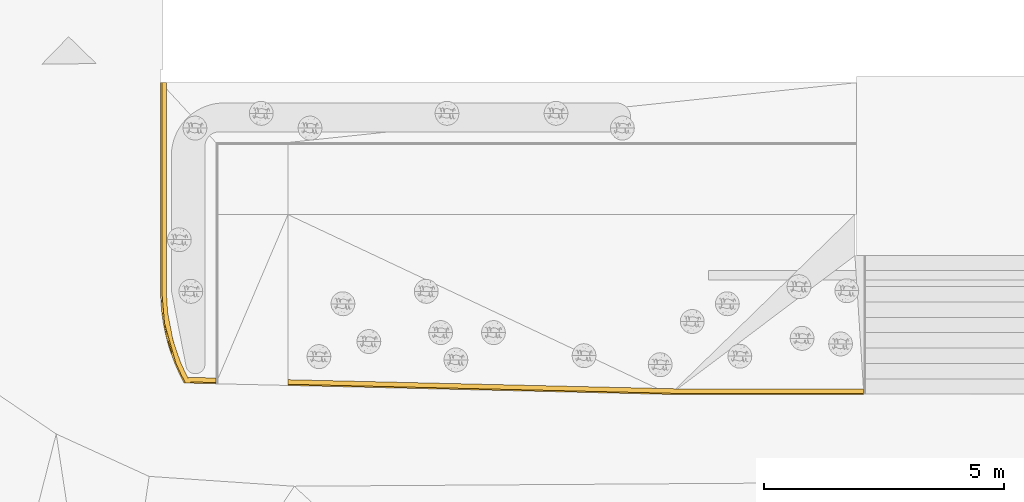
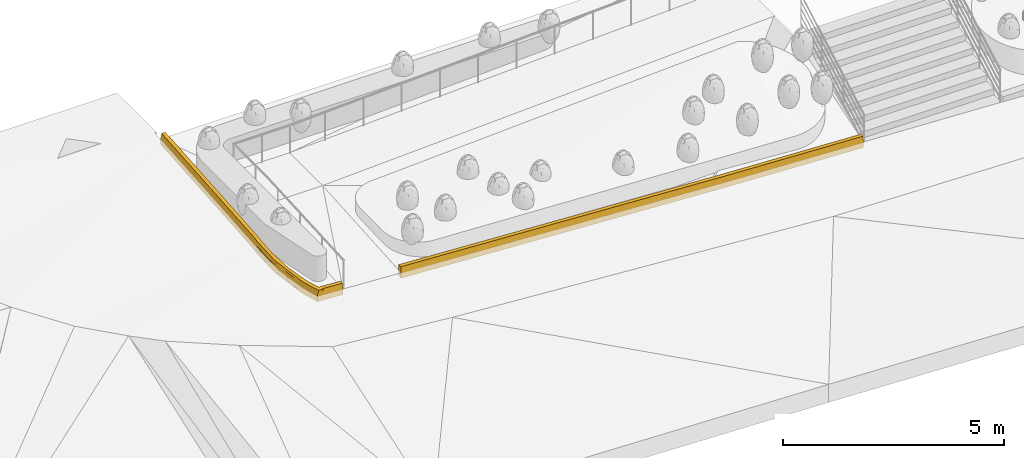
# One storey, part 17 of 23: 2 railings.
"""IFC2X3 building model written with IfcOpenShell, lengths in metres."""

from ifc_helpers import new_model, entity, si_unit, converted_unit, direction, frame, origin, place, context, subcontext, project, spatial, faceted_brep, material, material_list, type_object, element, save


model = new_model("IFC2X3")

# Units and contexts
model_context = context("Model", 3, precision=1e-05, world=origin(), true_north=direction((0.7716245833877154, 0.6360782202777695)))
body_context = subcontext(model_context, "Body", "Model", "MODEL_VIEW")
ifc_project = project(units=[si_unit("LENGTHUNIT", "METRE"), converted_unit("PLANEANGLEUNIT", "DEGREE", entity("IfcPlaneAngleMeasure", 0.017453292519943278), si_unit("PLANEANGLEUNIT", "RADIAN"), dimensions=[0, 0, 0, 0, 0, 0, 0]), si_unit("AREAUNIT", "SQUARE_METRE")], contexts=[model_context])

# Site, building, storey
site_placement = place(None, origin())
site = spatial("IfcSite", under=ifc_project, at=site_placement, Name="Default", CompositionType="ELEMENT")
building_placement = place(site_placement, origin())
building = spatial("IfcBuilding", under=site, at=building_placement, Name="<Building Name>", CompositionType="ELEMENT")
storey_placement = place(building_placement, origin())
storey = spatial("IfcBuildingStorey", under=building, at=storey_placement, Name="00 - HAV", CompositionType="ELEMENT", Elevation=0.0)

# Railings
ifc_material_1 = material(Name="Site - Concrete - Curb")
railing_type = type_object("IfcRailingType", Name="Railing:760 Kantstein 120x300mm", PredefinedType="NOTDEFINED")
railing_1_placement = place(storey_placement, frame((232.41792444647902, 46.69396431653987, 31.67794092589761)))
element("IfcRailing", 1, at=railing_1_placement, inside=storey, type_object=railing_type, material=ifc_material_1, Name="Railing:760 Kantstein 120x300mm", ObjectType="Railing:760 Kantstein 120x300mm", PredefinedType="NOTDEFINED", context=body_context, shape_type="Brep", body=[
    faceted_brep([(0.0, 0.19229799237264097, 0.6265913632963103), (0.0005877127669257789, 0.21729108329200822, 0.7684652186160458), (0.002821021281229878, 0.3122648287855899, 0.7684652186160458), (0.002821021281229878, 0.3122648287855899, 0.4682709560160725), (0.0, 0.19229799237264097, 0.4682709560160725), (7.952695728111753, 0.005290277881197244, 0.3402700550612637), (7.959175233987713, 0.030144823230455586, 0.4819317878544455), (7.961408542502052, 0.1251185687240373, 0.4819317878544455), (7.94894195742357, 0.12541172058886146, 0.1821863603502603), (7.9461209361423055, 0.005444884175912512, 0.1821863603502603), (8.177670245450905, 0.0, 0.3296452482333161), (8.177670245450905, 0.0, 0.17125104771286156), (8.177670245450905, 0.12003317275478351, 0.17138427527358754), (8.177670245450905, 0.12003317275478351, 0.47171845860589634), (8.177670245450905, 0.025006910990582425, 0.471612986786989)], [[[0, 1, 2, 3, 4]], [[1, 0, 5, 6]], [[2, 1, 6, 7]], [[3, 2, 7, 8]], [[4, 3, 8, 9]], [[0, 4, 9, 5]], [[10, 11, 12, 13, 14]], [[6, 5, 10, 14]], [[7, 6, 14, 13]], [[8, 7, 13, 12]], [[9, 8, 12, 11]], [[5, 9, 11, 10]]]),
    faceted_brep([(8.177670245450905, 1.6586377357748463e-05, 0.32964595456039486), (8.177670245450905, 0.02501658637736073, 0.4715719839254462), (8.177670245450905, 0.12001658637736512, 0.4715719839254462), (8.177670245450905, 0.12001658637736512, 0.17126732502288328), (8.177670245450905, 1.6586377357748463e-05, 0.17126732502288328), (11.976964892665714, 1.6586377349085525e-05, 0.15837862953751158), (11.976964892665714, 1.6586377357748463e-05, 0.0), (11.976964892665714, 0.12001658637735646, 0.0), (11.976964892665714, 0.12001658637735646, 0.30030465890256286), (11.976964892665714, 0.025016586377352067, 0.30030465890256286)], [[[0, 1, 2, 3, 4]], [[5, 6, 7, 8, 9]], [[1, 0, 5, 9]], [[2, 1, 9, 8]], [[3, 2, 8, 7]], [[4, 3, 7, 6]], [[0, 4, 6, 5]]]),
])
ifc_material_2 = material(Name="A_Default_Building_Part")
ifc_material_list = material_list([ifc_material_1, ifc_material_2])
railing_2_placement = place(storey_placement, frame((229.76623696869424, 46.92153482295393, 32.195423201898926)))
element("IfcRailing", 2, at=railing_2_placement, inside=storey, type_object=railing_type, material=ifc_material_list, Name="Railing:760 Kantstein 120x300mm", ObjectType="Railing:760 Kantstein 120x300mm", PredefinedType="NOTDEFINED", context=body_context, shape_type="Brep", body=[
    faceted_brep([(0.001687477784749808, 6.270510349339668, 0.9128211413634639), (0.02668747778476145, 6.270510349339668, 1.0550584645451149), (0.12168747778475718, 6.270510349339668, 1.0550584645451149), (0.12168747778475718, 6.270510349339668, 0.7540951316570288), (0.0016874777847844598, 6.270510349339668, 0.7540951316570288), (0.001687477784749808, 2.0970665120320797, 0.5780981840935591), (0.02668747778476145, 2.0782663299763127, 0.7188276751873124), (0.12168747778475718, 2.0782663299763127, 0.7188276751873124), (0.12168747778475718, 2.1180460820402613, 0.42105480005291), (0.0016874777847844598, 2.1180460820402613, 0.42105480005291), (0.0016874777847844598, 1.9338626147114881, 0.547458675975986), (0.001687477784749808, 1.9338626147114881, 0.38647663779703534), (0.12168747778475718, 1.9338626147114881, 0.386476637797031), (0.12168747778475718, 1.9338626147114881, 0.6917176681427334), (0.02668747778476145, 1.9338626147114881, 0.6917176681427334)], [[[0, 1, 2, 3, 4]], [[1, 0, 5, 6]], [[2, 1, 6, 7]], [[3, 2, 7, 8]], [[4, 3, 8, 9]], [[0, 4, 9, 5]], [[10, 11, 12, 13, 14]], [[6, 5, 10, 14]], [[7, 6, 14, 13]], [[8, 7, 13, 12]], [[9, 8, 12, 11]], [[5, 9, 11, 10]]]),
    faceted_brep([(0.04308944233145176, 1.4560091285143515, 0.5325013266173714), (0.024533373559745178, 1.720665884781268, 0.6074824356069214), (0.017716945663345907, 1.6966016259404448, 0.5558581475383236), (0.07505781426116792, 1.21510033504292, 0.46104386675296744), (0.081900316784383, 1.2246685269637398, 0.511481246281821), (0.20326943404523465, 0.726685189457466, 0.32100884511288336), (0.1517646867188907, 0.8946477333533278, 0.4237878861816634), (0.09222708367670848, 1.0876246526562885, 0.3902104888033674), (0.01416234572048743, 1.9338626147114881, 0.6195009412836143), (0.006628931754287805, 1.9338626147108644, 0.5759904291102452), (0.0016872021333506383, 1.9338626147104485, 0.5474486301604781), (0.03398635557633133, 1.631976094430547, 0.49135557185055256), (0.06310671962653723, 1.359800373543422, 0.44078303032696), (0.2984000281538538, 0.43860456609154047, 0.30133300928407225), (0.21729177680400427, 0.6665195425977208, 0.3611590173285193), (0.30418461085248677, 0.4409401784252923, 0.3373376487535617), (0.31571463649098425, 0.44559559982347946, 0.40935397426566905), (0.2389744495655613, 0.6289834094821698, 0.4020773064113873), (0.16748065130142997, 0.8641040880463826, 0.4585392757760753), (0.15876397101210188, 0.9973033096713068, 0.515656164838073), (0.08426582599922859, 1.2591766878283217, 0.5661135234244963), (0.052338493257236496, 1.6326943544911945, 0.6355630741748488), (0.026595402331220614, 1.9338626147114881, 0.6915604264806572), (0.030262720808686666, 1.5085269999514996, 0.503099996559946), (0.23326211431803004, 0.7354299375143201, 0.46519880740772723), (0.2926154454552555, 0.4362689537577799, 0.26532836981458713), (0.13011442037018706, 1.4257170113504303, 0.5959233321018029), (0.14728011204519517, 1.4880947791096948, 0.6073326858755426), (0.09652192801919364, 1.6796857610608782, 0.6442616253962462), (0.10123072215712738, 1.4498280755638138, 0.6011027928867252), (0.14814067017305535, 1.2405080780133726, 0.5606451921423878), (0.11946435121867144, 1.2305786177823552, 0.5597211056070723), (0.2060745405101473, 1.0259938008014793, 0.5184985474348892), (0.17630007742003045, 1.0298492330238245, 0.520476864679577), (0.2508957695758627, 0.822012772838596, 0.47895030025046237), (0.0740942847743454, 1.9338626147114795, 0.6916199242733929), (0.06628930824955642, 1.6675685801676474, 0.6423350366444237), (0.2231553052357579, 0.8028860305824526, 0.4769526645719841), (0.35975884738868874, 0.46337911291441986, 0.4094116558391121), (0.3817809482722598, 0.4722708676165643, 0.4094412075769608), (0.4038030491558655, 0.4811626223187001, 0.4094707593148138), (0.3094918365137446, 0.7599684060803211, 0.46483106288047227), (0.26070717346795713, 0.9041871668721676, 0.4934674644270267), (0.20399363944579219, 1.1961409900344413, 0.5504000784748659), (0.1344366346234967, 1.7109786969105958, 0.6495067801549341), (0.0978437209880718, 1.9338626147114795, 0.6916503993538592), (0.12159315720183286, 1.9338626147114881, 0.6916808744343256), (0.16680741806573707, 1.3436763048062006, 0.34355893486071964), (0.14727371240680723, 1.4881494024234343, 0.30193173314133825), (0.1409646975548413, 1.5474093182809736, 0.4038647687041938), (0.16327492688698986, 1.3673075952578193, 0.43504539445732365), (0.3202144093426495, 0.7085880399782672, 0.3701015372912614), (0.33291720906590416, 0.6711135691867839, 0.27664223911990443), (0.27407254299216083, 0.8571611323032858, 0.3329440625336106), (0.2203053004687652, 1.0645705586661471, 0.43356666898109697), (0.13454034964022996, 1.6181997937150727, 0.5264443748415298), (0.12163044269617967, 1.9338626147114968, 0.6313614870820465), (0.2131142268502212, 1.096494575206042, 0.33035979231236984), (0.13853695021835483, 1.639780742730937, 0.33070271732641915), (0.12643767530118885, 1.7418559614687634, 0.4705621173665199), (0.2853322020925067, 0.8188294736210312, 0.2467869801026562), (0.2606896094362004, 0.9042539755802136, 0.1880860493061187), (0.20398166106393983, 1.196201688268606, 0.2450088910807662), (0.12163994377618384, 1.9338626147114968, 0.4627972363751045), (0.12168747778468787, 1.9338626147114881, 0.5390917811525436), (0.1215924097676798, 1.9338626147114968, 0.38650269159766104), (0.30900092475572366, 0.7614311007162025, 0.15987588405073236), (0.40384614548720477, 0.4811800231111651, 0.1807560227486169), (0.4038044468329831, 0.48116318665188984, 0.10451777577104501), (0.3322470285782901, 0.6927085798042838, 0.14630191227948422), (0.40384544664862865, 0.4811797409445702, 0.3332325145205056), (0.4038878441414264, 0.4811968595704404, 0.2569942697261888), (0.1769372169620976, 1.111907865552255, 0.230276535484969), (0.22648810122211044, 0.8918171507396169, 0.187585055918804), (0.13810163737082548, 1.3227446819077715, 0.27099811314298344), (0.22166080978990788, 0.7662560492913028, 0.16534087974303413), (0.29109671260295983, 0.6637388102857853, 0.14322768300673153), (0.34816961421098, 0.4586997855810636, 0.10459079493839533), (0.06159384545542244, 1.9338626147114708, 0.38658006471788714), (0.09159312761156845, 1.9338626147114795, 0.3865413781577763), (0.0638609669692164, 1.6920997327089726, 0.34176051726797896), (0.08790360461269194, 1.4494670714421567, 0.29607720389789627), (0.10653560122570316, 1.5603562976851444, 0.3164301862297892), (0.027444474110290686, 1.6314271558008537, 0.3306594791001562), (0.059618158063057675, 1.2549953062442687, 0.2609634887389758), (0.2925347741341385, 0.4362363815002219, 0.10466163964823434), (0.1344640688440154, 0.9918936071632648, 0.21073712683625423), (0.20930997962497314, 0.728791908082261, 0.160510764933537), (0.0015952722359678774, 1.9338626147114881, 0.3866551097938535), (0.16312131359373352, 1.0280118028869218, 0.21543023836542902), (0.12050863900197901, 1.237888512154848, 0.25576439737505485), (0.38175294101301, 0.4722595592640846, 0.10454671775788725), (0.009072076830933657, 1.6905509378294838, 0.4194518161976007), (0.005699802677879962, 1.7534987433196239, 0.38755428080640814), (0.020051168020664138, 1.550502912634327, 0.35954001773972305), (0.17081919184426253, 0.7828481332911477, 0.21516458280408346), (0.08720585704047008, 1.1109052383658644, 0.2726568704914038), (0.03386664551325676, 1.4273471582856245, 0.3753612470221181), (0.01852536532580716, 1.5671731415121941, 0.43619146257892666), (0.0016643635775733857, 1.9338626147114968, 0.4837611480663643), (0.0016487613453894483, 1.9338626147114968, 0.4402528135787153), (0.0466732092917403, 1.3353095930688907, 0.31767432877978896), (0.2926085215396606, 0.4362661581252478, 0.21177311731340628), (0.13272784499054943, 0.9183216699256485, 0.27593285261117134), (0.20826137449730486, 0.664975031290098, 0.23203881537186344), (0.16321746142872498, 0.8086136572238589, 0.2946698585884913), (0.1076950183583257, 1.0190644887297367, 0.33449795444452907), (0.2925785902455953, 0.43625407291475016, 0.16830060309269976), (0.07529360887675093, 1.1699361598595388, 0.3296511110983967)], [[[0, 1, 2]], [[0, 3, 4]], [[5, 6, 7]], [[2, 8, 9]], [[9, 10, 11]], [[7, 3, 12]], [[5, 13, 14]], [[15, 16, 17]], [[4, 18, 19]], [[14, 17, 6]], [[6, 17, 18]], [[0, 20, 21]], [[1, 21, 22]], [[23, 0, 2]], [[8, 2, 1]], [[11, 2, 9]], [[3, 23, 12]], [[8, 1, 22]], [[21, 1, 0]], [[20, 0, 4]], [[23, 2, 11]], [[3, 7, 6]], [[18, 24, 19]], [[4, 3, 6]], [[19, 20, 4]], [[0, 23, 3]], [[23, 11, 12]], [[24, 18, 17]], [[6, 18, 4]], [[24, 17, 16]], [[14, 15, 17]], [[5, 25, 13]], [[14, 6, 5]], [[13, 15, 14]], [[26, 27, 28]], [[29, 21, 20]], [[30, 29, 31]], [[32, 33, 34]], [[35, 22, 36]], [[37, 16, 38]], [[30, 31, 33]], [[28, 36, 29]], [[30, 33, 32]], [[39, 40, 41]], [[37, 19, 24, 16]], [[33, 19, 37]], [[33, 37, 34]], [[28, 29, 26]], [[42, 34, 41]], [[39, 34, 38]], [[34, 39, 41]], [[19, 31, 20]], [[30, 43, 26]], [[32, 34, 42]], [[32, 42, 43]], [[29, 30, 26]], [[30, 32, 43]], [[33, 31, 19]], [[20, 31, 29]], [[21, 29, 36]], [[27, 26, 43]], [[27, 44, 28]], [[28, 44, 45]], [[44, 46, 45]], [[21, 36, 22]], [[36, 28, 35]], [[37, 38, 34]], [[45, 35, 28]], [[47, 48, 49]], [[27, 43, 50]], [[51, 42, 41, 40]], [[52, 53, 51]], [[54, 42, 51]], [[50, 49, 55]], [[44, 55, 56]], [[53, 57, 54]], [[49, 48, 58]], [[50, 47, 49]], [[54, 51, 53]], [[59, 49, 58]], [[53, 52, 60]], [[47, 50, 57]], [[54, 50, 43]], [[54, 43, 42]], [[57, 60, 61]], [[54, 57, 50]], [[62, 57, 61]], [[63, 64, 59]], [[27, 50, 55]], [[58, 65, 63]], [[56, 55, 64]], [[59, 64, 55]], [[47, 62, 48]], [[62, 47, 57]], [[44, 27, 55]], [[56, 46, 44]], [[61, 60, 66]], [[60, 52, 67]], [[53, 60, 57]], [[67, 68, 69, 66]], [[70, 71, 52]], [[51, 70, 52]], [[70, 51, 40]], [[67, 66, 60]], [[52, 71, 67]], [[63, 59, 58]], [[49, 59, 55]], [[72, 61, 73]], [[62, 72, 74]], [[75, 76, 77]], [[78, 79, 80]], [[81, 82, 74]], [[82, 79, 58]], [[83, 81, 84]], [[79, 65, 58]], [[82, 48, 74]], [[75, 77, 85]], [[86, 75, 85, 87]], [[80, 83, 88]], [[73, 75, 89]], [[80, 82, 81]], [[48, 82, 58]], [[84, 90, 89]], [[72, 62, 61]], [[78, 80, 88]], [[80, 81, 83]], [[81, 74, 90]], [[62, 74, 48]], [[74, 72, 90]], [[73, 89, 72]], [[89, 75, 86]], [[77, 76, 91]], [[73, 69, 76]], [[91, 76, 69]], [[73, 61, 66, 69]], [[69, 68, 91]], [[73, 76, 75]], [[81, 90, 84]], [[89, 90, 72]], [[86, 84, 89]], [[82, 80, 79]], [[92, 93, 94]], [[95, 96, 86]], [[97, 98, 92]], [[11, 99, 98]], [[100, 88, 93]], [[101, 83, 84]], [[83, 101, 94]], [[25, 5, 102]], [[103, 95, 104]], [[5, 104, 102]], [[97, 12, 98]], [[105, 7, 106]], [[103, 96, 95]], [[87, 107, 95]], [[100, 92, 99]], [[11, 10, 99]], [[97, 92, 94]], [[102, 104, 107]], [[87, 85, 107]], [[106, 103, 105]], [[92, 98, 99]], [[12, 108, 7]], [[12, 11, 98]], [[104, 95, 107]], [[84, 96, 101]], [[86, 87, 95]], [[101, 97, 94]], [[83, 94, 93]], [[97, 101, 108]], [[96, 108, 101]], [[97, 108, 12]], [[108, 103, 106]], [[83, 93, 88]], [[100, 93, 92]], [[108, 96, 103]], [[86, 96, 84]], [[106, 7, 108]], [[5, 7, 105]], [[105, 104, 5]], [[105, 103, 104]], [[8, 22, 35, 45, 46, 56, 64, 63, 65, 79, 78, 88, 100, 99, 10, 9]], [[71, 70, 40, 39, 38, 16, 15, 13, 25, 102, 107, 85, 77, 91, 68, 67]]]),
    faceted_brep([(0.32636977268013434, 0.3871213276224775, 0.32665391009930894), (0.31265197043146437, 0.418374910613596, 0.32911509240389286), (0.3015490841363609, 0.41450542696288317, 0.2609950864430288), (0.32430737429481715, 0.42482675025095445, 0.4053718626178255), (0.3041824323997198, 0.44093929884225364, 0.3374397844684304), (0.31570841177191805, 0.4455930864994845, 0.40954763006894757), (0.34259993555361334, 0.38065055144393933, 0.39648875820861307), (0.3329063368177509, 0.4040604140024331, 0.40119609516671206), (0.3034795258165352, 0.40980262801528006, 0.26005633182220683), (0.3101346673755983, 0.39358986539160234, 0.25682000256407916), (0.2926154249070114, 0.4362689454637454, 0.26533943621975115), (0.29804747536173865, 0.4230357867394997, 0.2626978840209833), (0.33199186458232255, 0.40626884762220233, 0.4016401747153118), (0.3263164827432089, 0.4199747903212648, 0.4043962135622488), (0.3864437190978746, 0.3989250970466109, 0.3964926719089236), (0.3597525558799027, 0.46337657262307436, 0.40960965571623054), (0.3715443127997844, 0.4303284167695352, 0.40301962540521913), (0.41704209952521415, 0.44917984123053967, 0.40308493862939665), (0.4156752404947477, 0.45248003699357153, 0.4037648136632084), (0.4037966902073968, 0.4811600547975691, 0.4096731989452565), (0.4302875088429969, 0.4171996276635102, 0.3964966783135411), (0.4243482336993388, 0.43153963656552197, 0.39945087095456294), (0.4203527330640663, 0.44106609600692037, 0.24872465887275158), (0.4038421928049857, 0.4811784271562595, 0.18063569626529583), (0.40388784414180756, 0.4811968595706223, 0.2569815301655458), (0.40379654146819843, 0.48115999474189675, 0.10428986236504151), (0.41039510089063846, 0.46492303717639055, 0.10095263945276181), (0.40617246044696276, 0.47531361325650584, 0.10308824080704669), (0.34816183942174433, 0.4586966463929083, 0.1043700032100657), (0.3491586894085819, 0.44926005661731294, 0.10266395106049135), (0.2925271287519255, 0.43623329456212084, 0.10444773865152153), (0.29688147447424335, 0.4255217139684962, 0.10231215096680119), (0.3550141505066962, 0.441837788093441, 0.10095767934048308), (0.2996331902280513, 0.4187525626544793, 0.10096257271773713), (0.29258691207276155, 0.43625743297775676, 0.18259141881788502), (0.29259535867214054, 0.436260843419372, 0.2071045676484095), (0.29937458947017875, 0.4195813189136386, 0.18201588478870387), (0.2925784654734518, 0.43625402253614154, 0.15807826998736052), (0.3048870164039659, 0.40617250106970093, 0.17889128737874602)], [[[0, 1, 2]], [[1, 3, 4]], [[5, 4, 3]], [[0, 6, 7]], [[1, 0, 7]], [[0, 2, 8, 9]], [[1, 10, 11, 2]], [[1, 7, 12, 13, 3]], [[10, 1, 4]], [[14, 12, 7, 6]], [[15, 5, 3, 13]], [[12, 16, 13]], [[17, 16, 14]], [[15, 17, 18, 19]], [[13, 16, 15]], [[14, 16, 12]], [[15, 16, 17]], [[14, 20, 21, 17]], [[22, 23, 21]], [[24, 21, 23]], [[24, 19, 18, 17, 21]], [[23, 22, 25]], [[22, 26, 27, 25]], [[21, 20, 22]], [[27, 28, 25]], [[26, 29, 27]], [[30, 29, 31]], [[32, 31, 29]], [[33, 31, 32]], [[26, 32, 29]], [[27, 29, 28]], [[30, 28, 29]], [[34, 8, 2, 11, 10, 35]], [[36, 34, 37]], [[36, 8, 34]], [[37, 30, 36]], [[8, 36, 9]], [[38, 36, 33]], [[9, 36, 38]], [[36, 30, 31, 33]], [[24, 23, 25, 28, 30, 37, 34, 35, 10, 4, 5, 15, 19]], [[26, 22, 20, 14, 6, 0, 9, 38, 33, 32]]]),
    faceted_brep([(0.37229299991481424, 0.2560395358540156, 0.23264444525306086), (0.401811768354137, 0.21409016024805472, 0.2844892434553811), (0.3208816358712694, 0.3893108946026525, 0.30303168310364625), (0.42688796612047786, 0.19547248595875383, 0.3637055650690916), (0.4454973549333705, 0.14108446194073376, 0.311471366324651), (0.5205149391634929, 0.014842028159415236, 0.3309101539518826), (0.40611722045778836, 0.18118966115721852, 0.21948871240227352), (0.5012443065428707, 0.015295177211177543, 0.23635672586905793), (0.38099786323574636, 0.2762738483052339, 0.33814933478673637), (0.3263760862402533, 0.3871232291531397, 0.3266577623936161), (0.3426219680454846, 0.38065871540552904, 0.3964941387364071), (0.5061226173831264, 0.015180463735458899, 0.2602631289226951), (0.4917074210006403, 0.015519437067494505, 0.18962074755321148), (0.310134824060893, 0.3935898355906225, 0.25682050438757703), (0.35812602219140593, 0.2873897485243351, 0.23815460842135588), (0.36454374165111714, 0.3897966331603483, 0.39649243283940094), (0.4302355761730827, 0.26216842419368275, 0.37324688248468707), (0.386465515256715, 0.3989345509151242, 0.39649072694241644), (0.4083872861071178, 0.4080724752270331, 0.396488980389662), (0.4559861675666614, 0.29667245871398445, 0.37662091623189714), (0.4963967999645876, 0.11673066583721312, 0.3473022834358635), (0.5481153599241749, 0.014193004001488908, 0.3286693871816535), (0.5757157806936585, 0.013543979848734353, 0.3264286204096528), (0.6308757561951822, 0.012246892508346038, 0.3218422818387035), (0.577784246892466, 0.11202704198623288, 0.3405021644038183), (0.5164107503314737, 0.15368984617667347, 0.35120133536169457), (0.5246927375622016, 0.21180719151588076, 0.3591620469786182), (0.4775008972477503, 0.31450879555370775, 0.3778246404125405), (0.43030905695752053, 0.417210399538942, 0.39648723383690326), (0.4931022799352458, 0.2805561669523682, 0.371654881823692), (0.4708604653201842, 0.32524453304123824, 0.2234304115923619), (0.4253309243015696, 0.42913825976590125, 0.3226059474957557), (0.5025913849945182, 0.25730587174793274, 0.28700055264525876), (0.4203527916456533, 0.4410661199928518, 0.24872466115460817), (0.4104179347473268, 0.4649307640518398, 0.10096208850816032), (0.5257073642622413, 0.2099281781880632, 0.2060735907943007), (0.5561972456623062, 0.1497328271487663, 0.2679332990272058), (0.4976890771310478, 0.26744066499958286, 0.06531272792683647), (0.5497102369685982, 0.16231651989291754, 0.12571684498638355), (0.5773207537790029, 0.1095520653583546, 0.19359322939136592), (0.6309348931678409, 0.012245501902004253, 0.12049811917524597), (0.5642828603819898, 0.13984376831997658, 0.041554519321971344), (0.5623283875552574, 0.14358863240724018, 0.042251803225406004), (0.6309628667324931, 0.01224484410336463, 0.16981929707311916), (0.6308766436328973, 0.01224687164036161, 0.017796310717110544), (0.41296284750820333, 0.3316286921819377, 0.08074993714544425), (0.49764810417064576, 0.108311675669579, 0.042076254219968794), (0.4564342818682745, 0.21478370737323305, 0.060520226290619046), (0.5360395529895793, 0.11154181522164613, 0.03960802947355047), (0.4369859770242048, 0.18361545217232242, 0.05739439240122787), (0.390094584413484, 0.29215432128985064, 0.07647064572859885), (0.373341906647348, 0.4494770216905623, 0.1009591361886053), (0.35503602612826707, 0.44184690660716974, 0.10095767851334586), (0.39000837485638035, 0.21446154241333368, 0.06517613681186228), (0.29965412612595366, 0.4187630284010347, 0.10095339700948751), (0.3273450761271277, 0.4303049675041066, 0.10095553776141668), (0.49162410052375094, 0.015521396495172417, 0.02939734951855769), (0.5264438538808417, 0.014702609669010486, 0.026539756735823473), (0.5612636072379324, 0.013883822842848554, 0.023682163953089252), (0.3475638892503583, 0.3066931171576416, 0.12259231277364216), (0.30489158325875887, 0.40617522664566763, 0.17888695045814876), (0.39453598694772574, 0.2051165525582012, 0.1467005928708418), (0.42670021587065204, 0.1394940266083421, 0.09372280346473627), (0.4917002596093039, 0.015519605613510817, 0.13621295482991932), (0.49166218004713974, 0.015520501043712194, 0.08280515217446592)], [[[0, 1, 2]], [[3, 4, 5]], [[6, 7, 1]], [[8, 1, 4]], [[9, 1, 8]], [[9, 8, 10]], [[2, 1, 9]], [[0, 6, 1]], [[11, 1, 7]], [[5, 4, 11]], [[6, 12, 7]], [[3, 10, 8]], [[3, 8, 4]], [[2, 13, 14, 0]], [[4, 1, 11]], [[15, 10, 16, 17]], [[18, 17, 19]], [[20, 3, 5]], [[20, 16, 3]], [[21, 22, 20, 5]], [[22, 23, 24]], [[16, 20, 25]], [[25, 20, 22]], [[26, 19, 25]], [[25, 22, 24]], [[19, 17, 16]], [[19, 27, 18]], [[25, 19, 16]], [[28, 18, 27]], [[24, 26, 25]], [[3, 16, 10]], [[19, 26, 29, 27]], [[30, 31, 32]], [[33, 30, 34]], [[32, 31, 29]], [[35, 32, 36]], [[24, 23, 36, 26]], [[26, 32, 29]], [[30, 37, 34]], [[38, 39, 40]], [[38, 41, 42, 37]], [[26, 36, 32]], [[35, 30, 32]], [[30, 35, 37]], [[36, 39, 35]], [[23, 39, 36]], [[39, 43, 40]], [[43, 39, 23]], [[40, 44, 41]], [[35, 39, 38]], [[35, 38, 37]], [[41, 38, 40]], [[31, 28, 27, 29]], [[31, 30, 33]], [[34, 37, 45]], [[46, 47, 48]], [[49, 50, 47]], [[37, 48, 47]], [[51, 34, 45, 52]], [[50, 49, 53]], [[50, 53, 54]], [[46, 49, 47]], [[48, 37, 42, 41, 44]], [[50, 54, 55, 52]], [[50, 45, 47]], [[45, 50, 52]], [[47, 45, 37]], [[49, 56, 53]], [[46, 57, 49]], [[58, 46, 48]], [[58, 48, 44]], [[56, 49, 57]], [[46, 58, 57]], [[54, 59, 60]], [[13, 60, 14]], [[61, 62, 63]], [[62, 53, 56]], [[62, 56, 64, 63]], [[61, 6, 0, 14]], [[61, 60, 59]], [[6, 61, 63]], [[53, 59, 54]], [[6, 63, 12]], [[61, 14, 60]], [[53, 62, 59]], [[61, 59, 62]], [[33, 34, 51, 52, 55, 54, 60, 13, 2, 9, 10, 15, 17, 18, 28, 31]], [[43, 12, 63]], [[43, 11, 7, 12]], [[11, 43, 23, 22, 21, 5]], [[58, 44, 40, 43, 63]], [[64, 56, 57, 58]], [[58, 63, 64]]]),
    faceted_brep([(0.6166341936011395, 0.03758869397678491, 0.32341993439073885), (0.6307747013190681, 0.012249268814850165, 0.18086944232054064), (1.1516874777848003, 0.0, 0.1583654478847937), (1.1522751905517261, 0.02499309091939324, 0.3002796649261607), (0.5629002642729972, 0.13387850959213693, 0.32583777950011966), (1.1545084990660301, 0.11996683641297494, 0.3002796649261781), (0.5629002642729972, 0.13387850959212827, 0.025558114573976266), (1.1545084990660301, 0.11996683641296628, 0.0), (0.6307747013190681, 0.012249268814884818, 0.022503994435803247), (1.1516874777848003, 0.0, 0.0)], [[[0, 1, 2, 3]], [[4, 0, 3, 5]], [[6, 4, 5, 7]], [[8, 6, 7, 9]], [[1, 8, 9, 2]], [[1, 0, 4, 6, 8]], [[2, 9, 7, 5, 3]]]),
])

save(model, "model.ifc")
